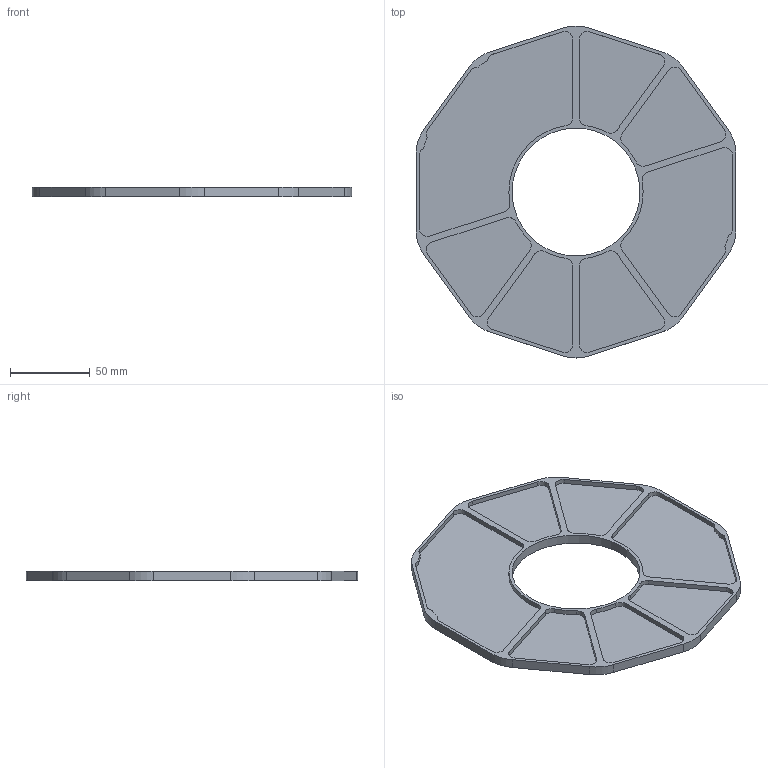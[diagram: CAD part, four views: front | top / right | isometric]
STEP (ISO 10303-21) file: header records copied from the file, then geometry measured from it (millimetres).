
FILE_DESCRIPTION(/* description */ (''),/* implementation_level */ '2;1');
FILE_NAME(/* name */ 'base desk asimmetrica_.step',/* time_stamp */ '2024-01-18T09:55:15+01:00',/* author */ (''),/* organization */ (''),/* preprocessor_version */ 'ST-DEVELOPER v20',/* originating_system */ 'Autodesk Translation Framework v12.14.0.127',/* authorisation */ '');
FILE_SCHEMA (('AUTOMOTIVE_DESIGN { 1 0 10303 214 3 1 1 }'));
Length unit declared in the file: millimetre
Products named in the file (1): base desk asimmetrica
Bounding box: 200 x 207.72 x 6 mm (x, y, z)
Volume: 93407.5 mm3; surface area: 64984.7 mm2
Topology: 1 solids, 1 shells, 98 faces, 267 edges, 178 vertices
Faces by surface type: cylinder 55, plane 43
Full cylindrical faces by diameter (mm): 80 x1
Entity records: 3185 total; most frequent: DIRECTION 575, CARTESIAN_POINT 544, ORIENTED_EDGE 534, EDGE_CURVE 267, AXIS2_PLACEMENT_3D 209, VERTEX_POINT 178, LINE 157, VECTOR 157
